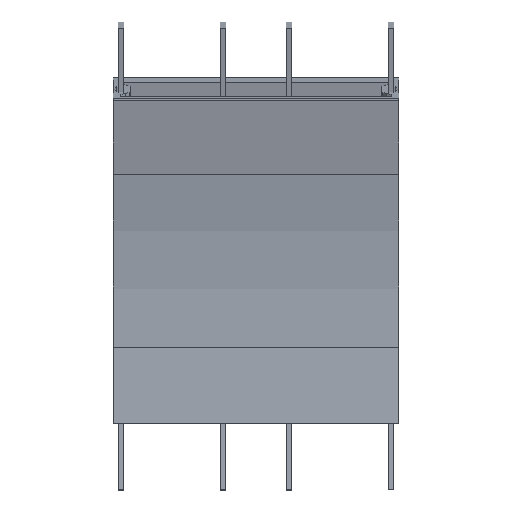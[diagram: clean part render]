
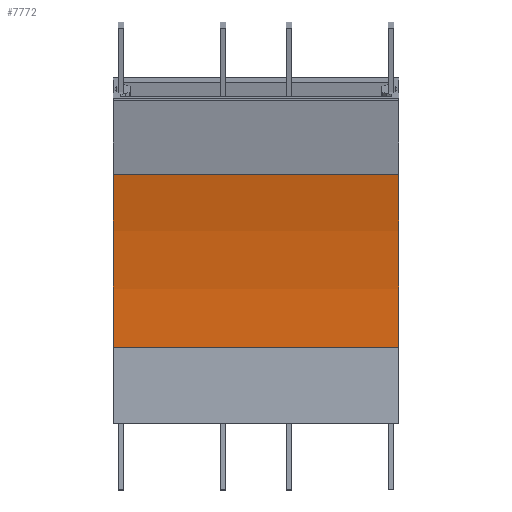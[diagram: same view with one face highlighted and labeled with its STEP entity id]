
A CAD part, top view. The second image highlights one B-rep face of the part: STEP entity #7772.
In plain terms, the highlighted cylindrical face has radius 703.5 mm (diameter 1407 mm), a partial arc.
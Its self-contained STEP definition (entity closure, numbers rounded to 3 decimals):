
#25 = DIRECTION ( 'NONE',  ( -1., 0., 0. ) ) ;
#258 = DIRECTION ( 'NONE',  ( -1., 0., 0. ) ) ;
#948 = CARTESIAN_POINT ( 'NONE',  ( 0., 80., 750. ) ) ;
#977 = VERTEX_POINT ( 'NONE', #4170 ) ;
#1181 = VERTEX_POINT ( 'NONE', #6282 ) ;
#1229 = ORIENTED_EDGE ( 'NONE', *, *, #7716, .F. ) ;
#1486 = AXIS2_PLACEMENT_3D ( 'NONE', #8662, #1565, #4718 ) ;
#1557 = DIRECTION ( 'NONE',  ( -1., 0., 0. ) ) ;
#1565 = DIRECTION ( 'NONE',  ( -1., 0., 0. ) ) ;
#1648 = CIRCLE ( 'NONE', #1486, 703.5 ) ;
#2395 = CARTESIAN_POINT ( 'NONE',  ( 150., 80., 750. ) ) ;
#2895 = EDGE_CURVE ( 'NONE', #6211, #8653, #7604, .T. ) ;
#3323 = EDGE_CURVE ( 'NONE', #977, #1181, #1648, .T. ) ;
#3628 = AXIS2_PLACEMENT_3D ( 'NONE', #2395, #7326, #9609 ) ;
#4081 = DIRECTION ( 'NONE',  ( 0., 0., 1. ) ) ;
#4170 = CARTESIAN_POINT ( 'NONE',  ( -150., 262.079, 70.471 ) ) ;
#4718 = DIRECTION ( 'NONE',  ( 0., 0.259, -0.966 ) ) ;
#4924 = CYLINDRICAL_SURFACE ( 'NONE', #7778, 703.5 ) ;
#5498 = ORIENTED_EDGE ( 'NONE', *, *, #7467, .T. ) ;
#5708 = ORIENTED_EDGE ( 'NONE', *, *, #2895, .F. ) ;
#6211 = VERTEX_POINT ( 'NONE', #8303 ) ;
#6282 = CARTESIAN_POINT ( 'NONE',  ( -150., 80., 46.5 ) ) ;
#6331 = LINE ( 'NONE', #7982, #7941 ) ;
#6557 = CARTESIAN_POINT ( 'NONE',  ( -150., 262.079, 70.471 ) ) ;
#7175 = EDGE_LOOP ( 'NONE', ( #1229, #5708, #5498, #7876 ) ) ;
#7326 = DIRECTION ( 'NONE',  ( -1., 0., 0. ) ) ;
#7467 = EDGE_CURVE ( 'NONE', #6211, #977, #8357, .T. ) ;
#7604 = CIRCLE ( 'NONE', #3628, 703.5 ) ;
#7716 = EDGE_CURVE ( 'NONE', #8653, #1181, #6331, .T. ) ;
#7772 = ADVANCED_FACE ( 'NONE', ( #7871 ), #4924, .F. ) ;
#7778 = AXIS2_PLACEMENT_3D ( 'NONE', #948, #1557, #4081 ) ;
#7871 = FACE_OUTER_BOUND ( 'NONE', #7175, .T. ) ;
#7876 = ORIENTED_EDGE ( 'NONE', *, *, #3323, .T. ) ;
#7941 = VECTOR ( 'NONE', #25, 1000. ) ;
#7982 = CARTESIAN_POINT ( 'NONE',  ( -150., 80., 46.5 ) ) ;
#8169 = CARTESIAN_POINT ( 'NONE',  ( 150., 80., 46.5 ) ) ;
#8303 = CARTESIAN_POINT ( 'NONE',  ( 150., 262.079, 70.471 ) ) ;
#8357 = LINE ( 'NONE', #6557, #8938 ) ;
#8653 = VERTEX_POINT ( 'NONE', #8169 ) ;
#8662 = CARTESIAN_POINT ( 'NONE',  ( -150., 80., 750. ) ) ;
#8938 = VECTOR ( 'NONE', #258, 1000. ) ;
#9609 = DIRECTION ( 'NONE',  ( 0., 0.259, -0.966 ) ) ;
